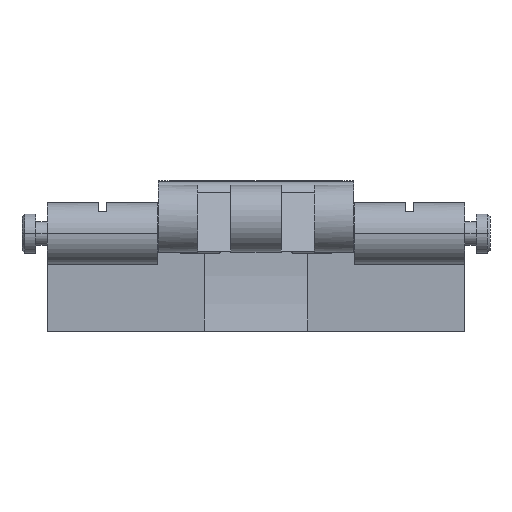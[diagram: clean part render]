
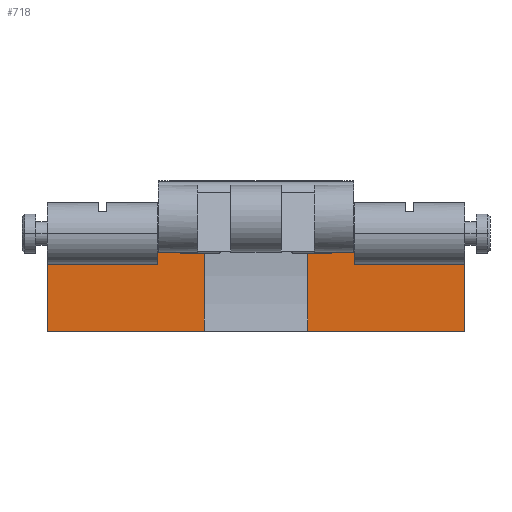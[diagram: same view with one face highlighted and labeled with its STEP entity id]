
A CAD part, top view. The second image highlights one B-rep face of the part: STEP entity #718.
In plain terms, the highlighted planar face has unit normal (0, 0, 1).
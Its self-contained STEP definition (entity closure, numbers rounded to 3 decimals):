
#55 = VERTEX_POINT ( 'NONE', #4233 ) ;
#263 = DIRECTION ( 'NONE',  ( 0., -1., 0. ) ) ;
#288 = DIRECTION ( 'NONE',  ( -1., 0., 0. ) ) ;
#469 = LINE ( 'NONE', #2545, #2516 ) ;
#503 = CARTESIAN_POINT ( 'NONE',  ( -37.5, 18.5, 11. ) ) ;
#599 = DIRECTION ( 'NONE',  ( -1., 0., 0. ) ) ;
#713 = ORIENTED_EDGE ( 'NONE', *, *, #2768, .F. ) ;
#718 = ADVANCED_FACE ( 'NONE', ( #3523 ), #3816, .F. ) ;
#898 = LINE ( 'NONE', #2350, #2697 ) ;
#1072 = CARTESIAN_POINT ( 'NONE',  ( -9.25, 15., 11. ) ) ;
#1075 = VECTOR ( 'NONE', #3378, 1000. ) ;
#1078 = CARTESIAN_POINT ( 'NONE',  ( 37.5, 0., 11. ) ) ;
#1194 = DIRECTION ( 'NONE',  ( -1., 0., 0. ) ) ;
#1334 = DIRECTION ( 'NONE',  ( 0., 0., -1. ) ) ;
#1516 = VERTEX_POINT ( 'NONE', #503 ) ;
#1544 = ORIENTED_EDGE ( 'NONE', *, *, #2376, .T. ) ;
#1546 = LINE ( 'NONE', #4362, #2820 ) ;
#1548 = EDGE_CURVE ( 'NONE', #1516, #4280, #3106, .T. ) ;
#1618 = DIRECTION ( 'NONE',  ( 0., 1., 0. ) ) ;
#1662 = ORIENTED_EDGE ( 'NONE', *, *, #2802, .F. ) ;
#1731 = DIRECTION ( 'NONE',  ( -1., 0., 0. ) ) ;
#1757 = VERTEX_POINT ( 'NONE', #3814 ) ;
#1884 = DIRECTION ( 'NONE',  ( -1., 0., 0. ) ) ;
#1959 = EDGE_CURVE ( 'NONE', #1757, #55, #1546, .T. ) ;
#1977 = CARTESIAN_POINT ( 'NONE',  ( 37.5, 0., 11. ) ) ;
#1997 = ORIENTED_EDGE ( 'NONE', *, *, #1959, .F. ) ;
#2104 = VERTEX_POINT ( 'NONE', #4016 ) ;
#2147 = LINE ( 'NONE', #1078, #3590 ) ;
#2255 = ORIENTED_EDGE ( 'NONE', *, *, #1548, .T. ) ;
#2350 = CARTESIAN_POINT ( 'NONE',  ( 9.25, 15., 11. ) ) ;
#2376 = EDGE_CURVE ( 'NONE', #2899, #1516, #3044, .T. ) ;
#2516 = VECTOR ( 'NONE', #1884, 1000. ) ;
#2545 = CARTESIAN_POINT ( 'NONE',  ( 37.5, 0., 11. ) ) ;
#2684 = CARTESIAN_POINT ( 'NONE',  ( -37.5, 0., 11. ) ) ;
#2697 = VECTOR ( 'NONE', #1618, 1000. ) ;
#2756 = DIRECTION ( 'NONE',  ( 0., 1., 0. ) ) ;
#2768 = EDGE_CURVE ( 'NONE', #3442, #1757, #898, .T. ) ;
#2802 = EDGE_CURVE ( 'NONE', #2104, #3442, #2147, .T. ) ;
#2820 = VECTOR ( 'NONE', #1194, 1000. ) ;
#2826 = LINE ( 'NONE', #1072, #4252 ) ;
#2831 = CARTESIAN_POINT ( 'NONE',  ( 37.5, 18.5, 11. ) ) ;
#2899 = VERTEX_POINT ( 'NONE', #2831 ) ;
#2915 = ORIENTED_EDGE ( 'NONE', *, *, #4249, .F. ) ;
#2921 = CARTESIAN_POINT ( 'NONE',  ( -9.25, 0., 11. ) ) ;
#3044 = LINE ( 'NONE', #4463, #3860 ) ;
#3081 = CARTESIAN_POINT ( 'NONE',  ( 37.5, 0., 11. ) ) ;
#3106 = LINE ( 'NONE', #2684, #3688 ) ;
#3174 = EDGE_CURVE ( 'NONE', #2899, #2104, #3422, .T. ) ;
#3267 = EDGE_CURVE ( 'NONE', #4158, #55, #2826, .T. ) ;
#3378 = DIRECTION ( 'NONE',  ( 0., -1., 0. ) ) ;
#3422 = LINE ( 'NONE', #1977, #1075 ) ;
#3442 = VERTEX_POINT ( 'NONE', #4384 ) ;
#3523 = FACE_OUTER_BOUND ( 'NONE', #4534, .T. ) ;
#3590 = VECTOR ( 'NONE', #1731, 1000. ) ;
#3688 = VECTOR ( 'NONE', #263, 1000. ) ;
#3814 = CARTESIAN_POINT ( 'NONE',  ( 9.25, 15., 11. ) ) ;
#3816 = PLANE ( 'NONE',  #4038 ) ;
#3860 = VECTOR ( 'NONE', #599, 1000. ) ;
#3872 = ORIENTED_EDGE ( 'NONE', *, *, #3267, .T. ) ;
#3940 = ORIENTED_EDGE ( 'NONE', *, *, #3174, .F. ) ;
#4016 = CARTESIAN_POINT ( 'NONE',  ( 37.5, 0., 11. ) ) ;
#4024 = CARTESIAN_POINT ( 'NONE',  ( -37.5, 0., 11. ) ) ;
#4038 = AXIS2_PLACEMENT_3D ( 'NONE', #3081, #1334, #288 ) ;
#4158 = VERTEX_POINT ( 'NONE', #2921 ) ;
#4233 = CARTESIAN_POINT ( 'NONE',  ( -9.25, 15., 11. ) ) ;
#4249 = EDGE_CURVE ( 'NONE', #4158, #4280, #469, .T. ) ;
#4252 = VECTOR ( 'NONE', #2756, 1000. ) ;
#4280 = VERTEX_POINT ( 'NONE', #4024 ) ;
#4362 = CARTESIAN_POINT ( 'NONE',  ( 9.25, 15., 11. ) ) ;
#4384 = CARTESIAN_POINT ( 'NONE',  ( 9.25, 0., 11. ) ) ;
#4463 = CARTESIAN_POINT ( 'NONE',  ( 17.6, 18.5, 11. ) ) ;
#4534 = EDGE_LOOP ( 'NONE', ( #3940, #1544, #2255, #2915, #3872, #1997, #713, #1662 ) ) ;
